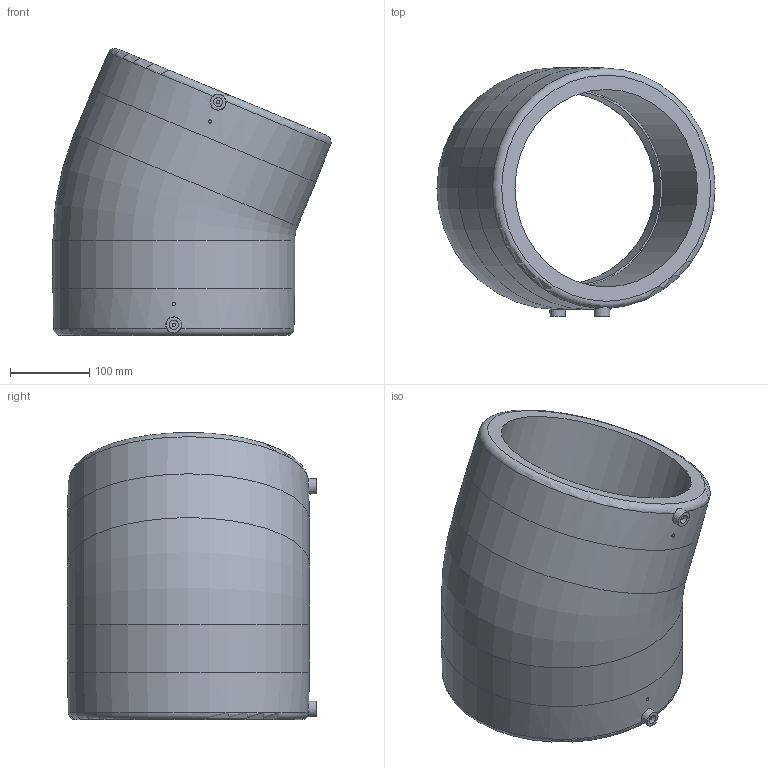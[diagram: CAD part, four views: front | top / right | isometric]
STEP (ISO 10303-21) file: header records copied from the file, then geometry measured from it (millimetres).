
FILE_DESCRIPTION(/* description */ ('Unknown'),/* implementation_level */ '2;1');
FILE_NAME(/* name */ 'GE2250P250C',/* time_stamp */ '2020-11-30T16:55:28+01:00',/* author */ ('Unknown'),/* organization */ ('Unknown'),/* preprocessor_version */ 'ST-DEVELOPER v16.7',/* originating_system */ 'Solid Edge',/* authorisation */ 'Unknown');
FILE_SCHEMA (('AUTOMOTIVE_DESIGN {1 0 10303 214 3 1 1}'));
Length unit declared in the file: millimetre
Products named in the file (1): GE2250P250C
Bounding box: 352.04 x 315 x 363.27 mm (x, y, z)
Volume: 7894726.1 mm3; surface area: 601772.3 mm2
Topology: 1 solids, 1 shells, 32 faces, 69 edges, 47 vertices
Faces by surface type: plane 12, cylinder 12, cone 4, torus 4
Full cylindrical faces by diameter (mm): 4 x4, 11.5 x2, 245 x2, 250 x2, 306 x2
Entity records: 776 total; most frequent: CARTESIAN_POINT 178, DIRECTION 124, ORIENTED_EDGE 78, AXIS2_PLACEMENT_3D 62, EDGE_LOOP 61, FACE_BOUND 61, EDGE_CURVE 39, VERTEX_POINT 36
